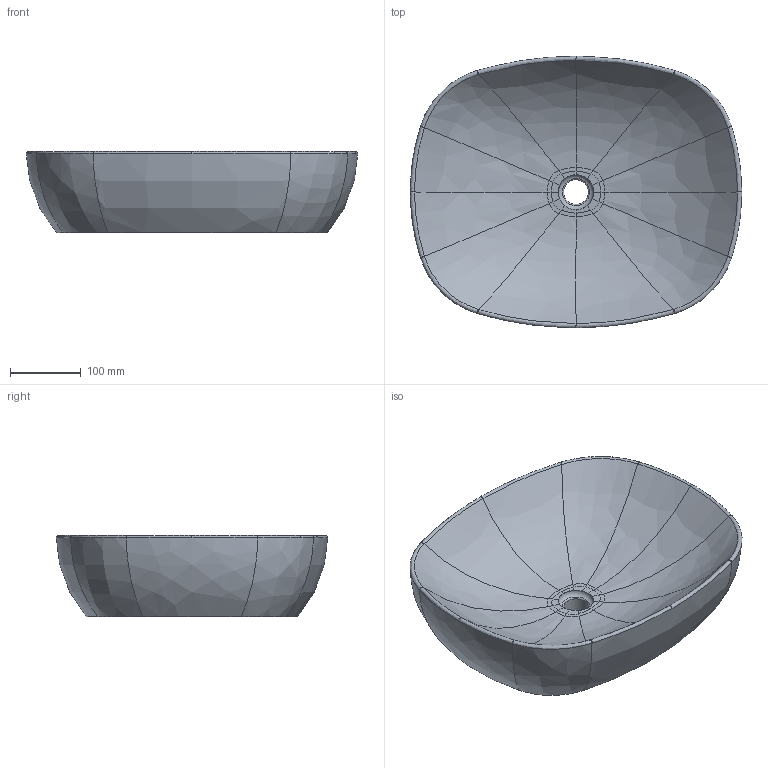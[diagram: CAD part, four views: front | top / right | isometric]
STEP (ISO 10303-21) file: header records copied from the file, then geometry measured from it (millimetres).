
FILE_DESCRIPTION(/* description */ (''),/* implementation_level */ '2;1');
FILE_NAME(/* name */ 'c:\worker\convert-fusion-r08\tmp\job-1\164\output\files\056c7f94-38bf-4cc1-914a-fab7b5fc0c65\fb65024e-28f1-417d-9bee-9362ef13db3f.stp',/* time_stamp */ '2019-11-24T20:34:18+00:00',/* author */ (''),/* organization */ (''),/* preprocessor_version */ 'ST-DEVELOPER v18',/* originating_system */ 'Autodesk Translation Framework v8.12.0.6',/* authorisation */ '');
FILE_SCHEMA (('AUTOMOTIVE_DESIGN { 1 0 10303 214 3 1 1 }'));
Length unit declared in the file: millimetre
Products named in the file (1): PORTLAND475BP - 2185 3D
Bounding box: 469.93 x 384.94 x 115 mm (x, y, z)
Volume: 7482421.3 mm3; surface area: 459109.1 mm2
Topology: 1 solids, 1 shells, 123 faces, 295 edges, 177 vertices
Faces by surface type: bspline 100, plane 17, torus 4, cylinder 2
Full cylindrical faces by diameter (mm): 35 x1, 50 x1
Entity records: 18307 total; most frequent: CARTESIAN_POINT 16050, ORIENTED_EDGE 590, EDGE_CURVE 295, DIRECTION 284, VERTEX_POINT 177, B_SPLINE_CURVE_WITH_KNOTS 170, AXIS2_PLACEMENT_3D 135, EDGE_LOOP 128
